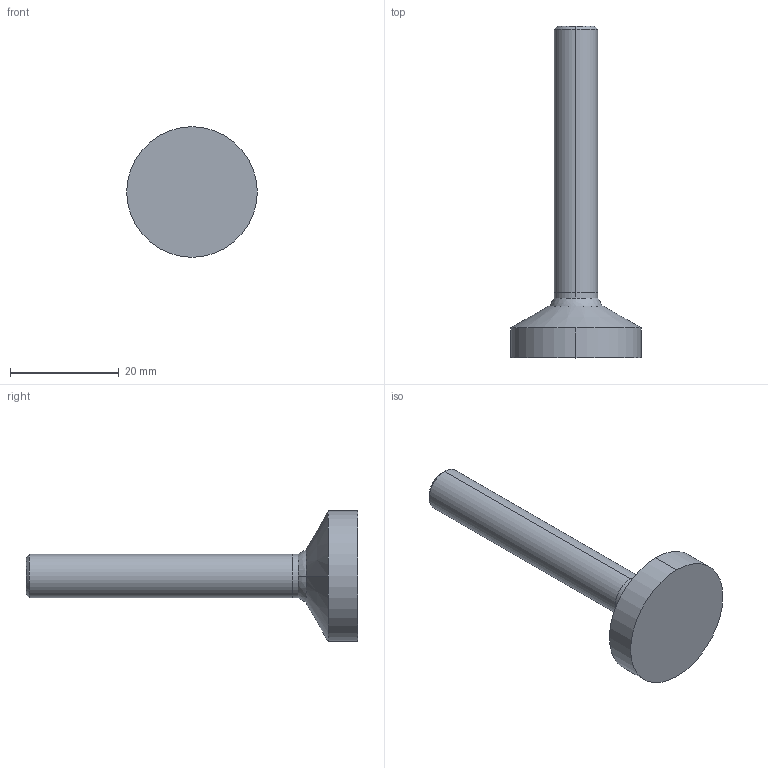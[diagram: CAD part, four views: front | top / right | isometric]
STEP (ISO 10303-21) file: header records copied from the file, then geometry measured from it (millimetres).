
FILE_DESCRIPTION (( 'STEP AP203' ), '1' );
FILE_NAME ('34640.W0050.step', '2011-08-08T09:40:05', ( 'Wixroyd' ), ( 'Wixroyd' ), 'SwSTEP 2.0', 'SolidWorks 2009', '' );
FILE_SCHEMA (( 'CONFIG_CONTROL_DESIGN' ));
Length unit declared in the file: millimetre
Products named in the file (3): Part1; 34640.W0050; Part2_3464W050
Assembly tree (2 placements, depth 2):
  34640.W0050
    Part2_3464W050
    Part1
Bounding box: 24 x 61 x 24 mm (x, y, z)
Volume: 5995.6 mm3; surface area: 3115.8 mm2
Topology: 2 solids, 2 shells, 32 faces, 80 edges, 49 vertices
Faces by surface type: plane 16, cone 6, cylinder 6, sphere 4
Entity records: 1183 total; most frequent: DIRECTION 176, CARTESIAN_POINT 150, ORIENTED_EDGE 138, AXIS2_PLACEMENT_3D 70, EDGE_CURVE 69, VERTEX_POINT 44, LINE 36, VECTOR 36
